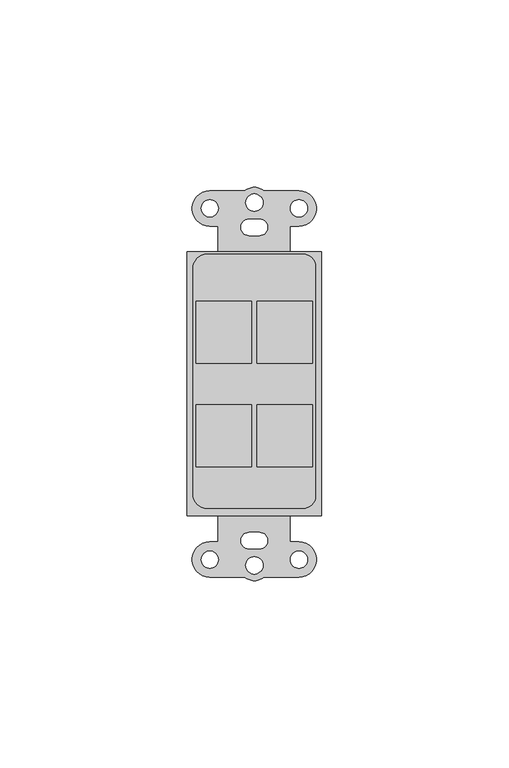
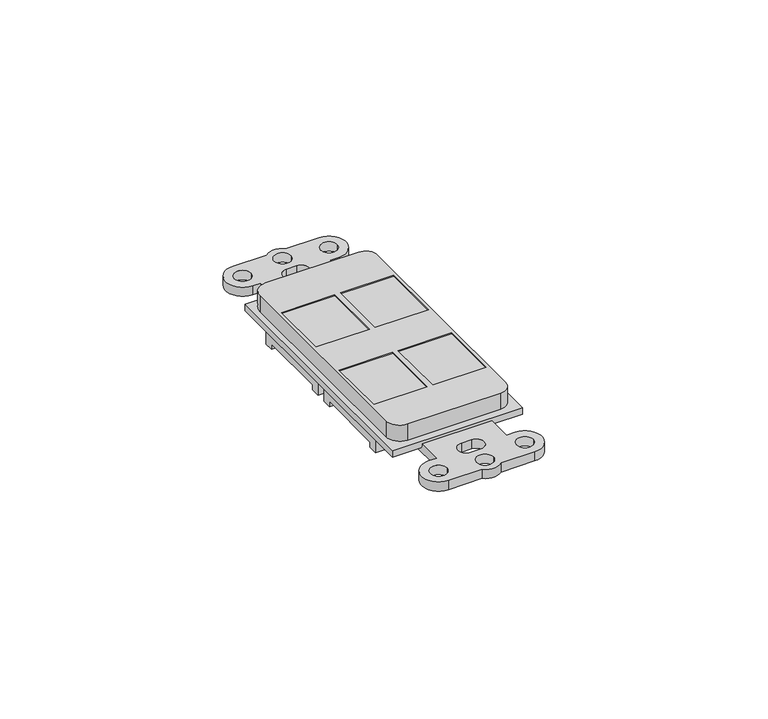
"""IFC4 building model written with IfcOpenShell, lengths in millimetres: electric appliance geometry, Data_Device-Network-Leviton-QuickPort-Duplex : 4-Ports Floor Box Mounting Bezel, Color Black."""

from ifc_helpers import new_model, si_unit, frame, origin, origin_with_axes, place, context, project, spatial, polyline, circle_curve, outline, extrude, faceted_brep, source, transform, mapped, element, save
from ifc_brep_helpers import plane_surface, cylinder_surface, revolved_surface, advanced_brep


def electric_appliance_8460f8e4(model_context):
    return source(origin(), model_context, "Body", "SolidModel", [
        faceted_brep([(-6.0071, 4.54147, -3.175), (-6.0071, 4.54147, 1.651), (-6.0071, -20.09653, 1.651), (-6.0071, -20.09653, -3.175), (-6.0071, -17.55653, -3.175), (-6.0071, -17.55653, -1.651), (-6.0071, 2.00147, -1.651), (-6.0071, 2.00147, -3.175), (-40.0431, 4.54147, -3.175), (-40.0431, 2.00147, -3.175), (-40.0431, 2.00147, -1.651), (-40.0431, -17.55653, -1.651), (-40.0431, -17.55653, -3.175), (-40.0431, -20.09653, -3.175), (-40.0431, -20.09653, 1.651), (-40.0431, 4.54147, 1.651), (-38.5270375, -0.1337175, 1.651), (-23.7950375, -0.1337175, 1.651), (-23.7950375, -16.6437175, 1.651), (-38.5270375, -16.6437175, 1.651), (-22.2551625, -0.1337175, 1.651), (-7.5231625, -0.1337175, 1.651), (-7.5231625, -16.6437175, 1.651), (-22.2551625, -16.6437175, 1.651), (-23.7950375, -0.1337175, -1.651), (-38.5270375, -0.1337175, -1.651), (-38.5270375, -16.6437175, -1.651), (-23.7950375, -16.6437175, -1.651), (-7.5231625, -0.1337175, -1.651), (-22.2551625, -0.1337175, -1.651), (-22.2551625, -16.6437175, -1.651), (-7.5231625, -16.6437175, -1.651)], [[[0, 1, 2, 3, 4, 5, 6, 7]], [[8, 9, 10, 11, 12, 13, 14, 15]], [[1, 0, 8, 15]], [[2, 1, 15, 14], [16, 17, 18, 19], [20, 21, 22, 23]], [[3, 2, 14, 13]], [[4, 3, 13, 12]], [[5, 4, 12, 11]], [[6, 5, 11, 10], [24, 25, 26, 27], [28, 29, 30, 31]], [[7, 6, 10, 9]], [[0, 7, 9, 8]], [[24, 17, 16, 25]], [[25, 16, 19, 26]], [[26, 19, 18, 27]], [[17, 24, 27, 18]], [[28, 21, 20, 29]], [[29, 20, 23, 30]], [[30, 23, 22, 31]], [[21, 28, 31, 22]]]),
        advanced_brep(
        [(-10.0194153, 40.0764273, 8.255), (-35.6225625, 40.0764273, 8.255), (-39.4081, 36.2908898, 8.255), (-39.4081, -23.9315727, 8.255), (-35.6225625, -27.7171102, 8.255), (-10.0194153, -27.7171102, 8.255), (-6.6421, -24.3397948, 8.255), (-6.6421, 36.699112, 8.255), (-38.5270375, 27.5522825, 8.255), (-23.7950375, 27.5522825, 8.255), (-23.7950375, 11.0422825, 8.255), (-38.5270375, 11.0422825, 8.255), (-38.5270375, -0.1337175, 8.255), (-23.7950375, -0.1337175, 8.255), (-23.7950375, -16.6437175, 8.255), (-38.5270375, -16.6437175, 8.255), (-22.2551625, 27.5522825, 8.255), (-7.5231625, 27.5522825, 8.255), (-7.5231625, 11.0422825, 8.255), (-22.2551625, 11.0422825, 8.255), (-22.2551625, -0.1337175, 8.255), (-7.5231625, -0.1337175, 8.255), (-7.5231625, -16.6437175, 8.255), (-22.2551625, -16.6437175, 8.255), (-32.6771, -36.6462175, 2.667), (-34.9256764, -36.6462175, 2.667), (-34.9256764, -46.0442175, 2.667), (-25.6156329, -46.0442175, 2.667), (-20.3869949, -46.0442175, 2.667), (-11.1131764, -46.0442175, 2.667), (-11.1131764, -36.6462175, 2.667), (-13.4944264, -36.6462175, 2.667), (-13.4944264, -29.7247175, 2.667), (-32.6771, -29.7247175, 2.667), (-24.4501, -38.5287175, 2.667), (-24.4501, -34.1287175, 2.667), (-21.6501, -34.1287175, 2.667), (-21.6501, -38.5287175, 2.667), (-37.2116764, -41.3960175, 2.667), (-32.6396764, -41.3960175, 2.667), (-25.3421446, -42.9327175, 2.667), (-20.7080554, -42.9327175, 2.667), (-13.3991764, -41.3960175, 2.667), (-8.8271764, -41.3960175, 2.667), (-13.4944264, 47.5547825, 2.667), (-11.1131764, 47.5547825, 2.667), (-11.1131764, 56.9527825, 2.667), (-20.3869949, 56.9527825, 2.667), (-25.6156329, 56.9527825, 2.667), (-34.9256764, 56.9527825, 2.667), (-34.9256764, 47.5547825, 2.667), (-32.6771, 47.5547825, 2.667), (-32.6771, 40.7159332, 2.667), (-13.4944264, 40.7159332, 2.667), (-24.4501, 49.4372825, 2.667), (-21.6501, 49.4372825, 2.667), (-21.6501, 45.0372825, 2.667), (-24.4501, 45.0372825, 2.667), (-37.2116764, 52.3045825, 2.667), (-32.6396764, 52.3045825, 2.667), (-25.3421446, 53.8412825, 2.667), (-20.7080554, 53.8412825, 2.667), (-13.3991764, 52.3045825, 2.667), (-8.8271764, 52.3045825, 2.667), (-32.6771, -25.4893681, 0.0), (-13.4944264, -25.4893681, 0.0), (-13.4944264, -36.6462175, 0.0), (-11.1131764, -36.6462175, 0.0), (-11.1131764, -46.0442175, 0.0), (-20.3869949, -46.0442175, 0.0), (-25.6156329, -46.0442175, 0.0), (-34.9256764, -46.0442175, 0.0), (-34.9256764, -36.6462175, 0.0), (-32.6771, -36.6462175, 0.0), (-24.4501, -38.5287175, 0.0), (-21.6501, -38.5287175, 0.0), (-21.6501, -34.1287175, 0.0), (-24.4501, -34.1287175, 0.0), (-37.2116764, -41.3960175, 0.0), (-32.6396764, -41.3960175, 0.0), (-25.3421446, -42.9327175, 0.0), (-20.7080554, -42.9327175, 0.0), (-13.3991764, -41.3960175, 0.0), (-8.8271764, -41.3960175, 0.0), (-32.6771, 36.3979332, 0.0), (-32.6771, 47.5547825, 0.0), (-34.9256764, 47.5547825, 0.0), (-34.9256764, 56.9527825, 0.0), (-25.6156329, 56.9527825, 0.0), (-20.3869949, 56.9527825, 0.0), (-11.1131764, 56.9527825, 0.0), (-11.1131764, 47.5547825, 0.0), (-13.4944264, 47.5547825, 0.0), (-13.4944264, 36.3979332, 0.0), (-24.4501, 49.4372825, 0.0), (-24.4501, 45.0372825, 0.0), (-21.6501, 45.0372825, 0.0), (-21.6501, 49.4372825, 0.0), (-37.2116764, 52.3045825, 0.0), (-32.6396764, 52.3045825, 0.0), (-25.3421446, 53.8412825, 0.0), (-20.7080554, 53.8412825, 0.0), (-13.3991764, 52.3045825, 0.0), (-8.8271764, 52.3045825, 0.0), (-32.6771, -29.7247175, 1.651), (-32.6771, -25.4893681, 1.651), (-13.4944264, -25.4893681, 1.651), (-13.4944264, -29.7247175, 1.651), (-13.4944264, 36.3979332, 1.651), (-32.6771, 36.3979332, 1.651), (-13.4944264, 40.7159332, 1.651), (-32.6771, 40.7159332, 1.651), (-10.0194153, 40.0764273, 3.556), (-35.6225625, 40.0764273, 3.556), (-39.4081, 36.2908898, 3.556), (-39.4081, -23.9315727, 3.556), (-35.6225625, -27.7171102, 3.556), (-10.0194153, -27.7171102, 3.556), (-6.6421, -24.3397948, 3.556), (-6.6421, 36.699112, 3.556), (-40.9321, 40.7159332, 3.556), (-40.9321, -29.7247175, 3.556), (-5.1181, -29.7247175, 3.556), (-5.1181, 40.7159332, 3.556), (-5.1181, 40.7159332, 1.651), (-5.1181, -29.7247175, 1.651), (-40.9321, -29.7247175, 1.651), (-40.9321, 40.7159332, 1.651), (-23.7950375, -0.1337175, 1.651), (-38.5270375, -0.1337175, 1.651), (-38.5270375, -16.6437175, 1.651), (-23.7950375, -16.6437175, 1.651), (-7.5231625, -0.1337175, 1.651), (-22.2551625, -0.1337175, 1.651), (-22.2551625, -16.6437175, 1.651), (-7.5231625, -16.6437175, 1.651), (-6.0071, 7.4862825, 1.651), (-6.0071, 32.1242825, 1.651), (-40.0431, 32.1242825, 1.651), (-40.0431, 7.4862825, 1.651), (-23.7950375, 27.5522825, -1.651), (-38.5270375, 27.5522825, -1.651), (-38.5270375, 11.0422825, -1.651), (-23.7950375, 11.0422825, -1.651), (-7.5231625, 27.5522825, -1.651), (-22.2551625, 27.5522825, -1.651), (-22.2551625, 11.0422825, -1.651), (-7.5231625, 11.0422825, -1.651), (-6.0071, 32.1242825, -3.175), (-6.0071, 7.4862825, -3.175), (-6.0071, 10.0262825, -3.175), (-6.0071, 10.0262825, -1.651), (-6.0071, 29.5842825, -1.651), (-6.0071, 29.5842825, -3.175), (-40.0431, 32.1242825, -3.175), (-40.0431, 29.5842825, -3.175), (-40.0431, 29.5842825, -1.651), (-40.0431, 10.0262825, -1.651), (-40.0431, 10.0262825, -3.175), (-40.0431, 7.4862825, -3.175)],
        [
            (0, 1),
            (1, 2, circle_curve(frame((-35.6225625, 36.2908898, 8.255), z_axis=(0.0, 0.0, 1.0), x_axis=(1.0, 0.0, 0.0)), 3.7855375)),
            (2, 3),
            (3, 4, circle_curve(frame((-35.6225625, -23.9315727, 8.255), z_axis=(0.0, 0.0, 1.0), x_axis=(1.0, 0.0, 0.0)), 3.7855375)),
            (4, 5),
            (5, 6, circle_curve(frame((-10.0194153, -24.3397948, 8.255), z_axis=(0.0, 0.0, 1.0), x_axis=(1.0, 0.0, 0.0)), 3.3773153)),
            (6, 7),
            (7, 0, circle_curve(frame((-10.0194153, 36.699112, 8.255), z_axis=(0.0, 0.0, 1.0), x_axis=(1.0, 0.0, 0.0)), 3.3773153)),
            (8, 9),
            (9, 10),
            (10, 11),
            (11, 8),
            (12, 13),
            (13, 14),
            (14, 15),
            (15, 12),
            (16, 17),
            (17, 18),
            (18, 19),
            (19, 16),
            (20, 21),
            (21, 22),
            (22, 23),
            (23, 20),
            (24, 25),
            (25, 26, circle_curve(frame((-34.9256764, -41.3452175, 2.667), z_axis=(0.0, 0.0, 1.0), x_axis=(1.0, 0.0, 0.0)), 4.699)),
            (26, 27),
            (27, 28, circle_curve(frame((-23.0013139, -42.9327175, 2.667), z_axis=(0.0, 0.0, 1.0), x_axis=(1.0, 0.0, 0.0)), 4.064)),
            (28, 29),
            (29, 30, circle_curve(frame((-11.1131764, -41.3452175, 2.667), z_axis=(0.0, 0.0, 1.0), x_axis=(1.0, 0.0, 0.0)), 4.699)),
            (30, 31),
            (31, 32),
            (32, 33),
            (33, 24),
            (34, 35, circle_curve(frame((-24.4501, -36.3287175, 2.667), z_axis=(0.0, 0.0, -1.0), x_axis=(1.0, 0.0, 0.0)), 2.2)),
            (35, 36),
            (36, 37, circle_curve(frame((-21.6501, -36.3287175, 2.667), z_axis=(0.0, 0.0, -1.0), x_axis=(1.0, 0.0, 0.0)), 2.2)),
            (37, 34),
            (38, 39, circle_curve(frame((-34.9256764, -41.3960175, 2.667), z_axis=(0.0, 0.0, -1.0), x_axis=(1.0, 0.0, 0.0)), 2.286)),
            (39, 38, circle_curve(frame((-34.9256764, -41.3960175, 2.667), z_axis=(0.0, 0.0, -1.0), x_axis=(1.0, 0.0, 0.0)), 2.286)),
            (40, 41, circle_curve(frame((-23.0251, -42.9327175, 2.667), z_axis=(0.0, 0.0, -1.0), x_axis=(1.0, 0.0, 0.0)), 2.3170446)),
            (41, 40, circle_curve(frame((-23.0251, -42.9327175, 2.667), z_axis=(0.0, 0.0, -1.0), x_axis=(1.0, 0.0, 0.0)), 2.3170446)),
            (42, 43, circle_curve(frame((-11.1131764, -41.3960175, 2.667), z_axis=(0.0, 0.0, -1.0), x_axis=(1.0, 0.0, 0.0)), 2.286)),
            (43, 42, circle_curve(frame((-11.1131764, -41.3960175, 2.667), z_axis=(0.0, 0.0, -1.0), x_axis=(1.0, 0.0, 0.0)), 2.286)),
            (44, 45),
            (45, 46, circle_curve(frame((-11.1131764, 52.2537825, 2.667), z_axis=(0.0, 0.0, 1.0), x_axis=(1.0, 0.0, 0.0)), 4.699)),
            (46, 47),
            (47, 48, circle_curve(frame((-23.0013139, 53.8412825, 2.667), z_axis=(0.0, 0.0, 1.0), x_axis=(1.0, 0.0, 0.0)), 4.064)),
            (48, 49),
            (49, 50, circle_curve(frame((-34.9256764, 52.2537825, 2.667), z_axis=(0.0, 0.0, 1.0), x_axis=(1.0, 0.0, 0.0)), 4.699)),
            (50, 51),
            (51, 52),
            (52, 53),
            (53, 44),
            (54, 55),
            (55, 56, circle_curve(frame((-21.6501, 47.2372825, 2.667), z_axis=(0.0, 0.0, -1.0), x_axis=(1.0, 0.0, 0.0)), 2.2)),
            (56, 57),
            (57, 54, circle_curve(frame((-24.4501, 47.2372825, 2.667), z_axis=(0.0, 0.0, -1.0), x_axis=(1.0, 0.0, 0.0)), 2.2)),
            (58, 59, circle_curve(frame((-34.9256764, 52.3045825, 2.667), z_axis=(0.0, 0.0, -1.0), x_axis=(1.0, 0.0, 0.0)), 2.286)),
            (59, 58, circle_curve(frame((-34.9256764, 52.3045825, 2.667), z_axis=(0.0, 0.0, -1.0), x_axis=(1.0, 0.0, 0.0)), 2.286)),
            (60, 61, circle_curve(frame((-23.0251, 53.8412825, 2.667), z_axis=(0.0, 0.0, -1.0), x_axis=(1.0, 0.0, 0.0)), 2.3170446)),
            (61, 60, circle_curve(frame((-23.0251, 53.8412825, 2.667), z_axis=(0.0, 0.0, -1.0), x_axis=(1.0, 0.0, 0.0)), 2.3170446)),
            (62, 63, circle_curve(frame((-11.1131764, 52.3045825, 2.667), z_axis=(0.0, 0.0, -1.0), x_axis=(1.0, 0.0, 0.0)), 2.286)),
            (63, 62, circle_curve(frame((-11.1131764, 52.3045825, 2.667), z_axis=(0.0, 0.0, -1.0), x_axis=(1.0, 0.0, 0.0)), 2.286)),
            (64, 65),
            (65, 66),
            (66, 67),
            (67, 68, circle_curve(frame((-11.1131764, -41.3452175, 0.0), z_axis=(0.0, 0.0, -1.0), x_axis=(1.0, 0.0, 0.0)), 4.699)),
            (68, 69),
            (69, 70, circle_curve(frame((-23.0013139, -42.9327175, 0.0), z_axis=(0.0, 0.0, -1.0), x_axis=(1.0, 0.0, 0.0)), 4.064)),
            (70, 71),
            (71, 72, circle_curve(frame((-34.9256764, -41.3452175, 0.0), z_axis=(0.0, 0.0, -1.0), x_axis=(1.0, 0.0, 0.0)), 4.699)),
            (72, 73),
            (73, 64),
            (74, 75),
            (75, 76, circle_curve(frame((-21.6501, -36.3287175, 0.0), z_axis=(0.0, 0.0, 1.0), x_axis=(1.0, 0.0, 0.0)), 2.2)),
            (76, 77),
            (77, 74, circle_curve(frame((-24.4501, -36.3287175, 0.0), z_axis=(0.0, 0.0, 1.0), x_axis=(1.0, 0.0, 0.0)), 2.2)),
            (78, 79, circle_curve(frame((-34.9256764, -41.3960175, 0.0), z_axis=(0.0, 0.0, 1.0), x_axis=(1.0, 0.0, 0.0)), 2.286)),
            (79, 78, circle_curve(frame((-34.9256764, -41.3960175, 0.0), z_axis=(0.0, 0.0, 1.0), x_axis=(1.0, 0.0, 0.0)), 2.286)),
            (80, 81, circle_curve(frame((-23.0251, -42.9327175, 0.0), z_axis=(0.0, 0.0, 1.0), x_axis=(1.0, 0.0, 0.0)), 2.3170446)),
            (81, 80, circle_curve(frame((-23.0251, -42.9327175, 0.0), z_axis=(0.0, 0.0, 1.0), x_axis=(1.0, 0.0, 0.0)), 2.3170446)),
            (82, 83, circle_curve(frame((-11.1131764, -41.3960175, 0.0), z_axis=(0.0, 0.0, 1.0), x_axis=(1.0, 0.0, 0.0)), 2.286)),
            (83, 82, circle_curve(frame((-11.1131764, -41.3960175, 0.0), z_axis=(0.0, 0.0, 1.0), x_axis=(1.0, 0.0, 0.0)), 2.286)),
            (84, 85),
            (85, 86),
            (86, 87, circle_curve(frame((-34.9256764, 52.2537825, 0.0), z_axis=(0.0, 0.0, -1.0), x_axis=(1.0, 0.0, 0.0)), 4.699)),
            (87, 88),
            (88, 89, circle_curve(frame((-23.0013139, 53.8412825, 0.0), z_axis=(0.0, 0.0, -1.0), x_axis=(1.0, 0.0, 0.0)), 4.064)),
            (89, 90),
            (90, 91, circle_curve(frame((-11.1131764, 52.2537825, 0.0), z_axis=(0.0, 0.0, -1.0), x_axis=(1.0, 0.0, 0.0)), 4.699)),
            (91, 92),
            (92, 93),
            (93, 84),
            (94, 95, circle_curve(frame((-24.4501, 47.2372825, 0.0), z_axis=(0.0, 0.0, 1.0), x_axis=(1.0, 0.0, 0.0)), 2.2)),
            (95, 96),
            (96, 97, circle_curve(frame((-21.6501, 47.2372825, 0.0), z_axis=(0.0, 0.0, 1.0), x_axis=(1.0, 0.0, 0.0)), 2.2)),
            (97, 94),
            (98, 99, circle_curve(frame((-34.9256764, 52.3045825, 0.0), z_axis=(0.0, 0.0, 1.0), x_axis=(1.0, 0.0, 0.0)), 2.286)),
            (99, 98, circle_curve(frame((-34.9256764, 52.3045825, 0.0), z_axis=(0.0, 0.0, 1.0), x_axis=(1.0, 0.0, 0.0)), 2.286)),
            (100, 101, circle_curve(frame((-23.0251, 53.8412825, 0.0), z_axis=(0.0, 0.0, 1.0), x_axis=(1.0, 0.0, 0.0)), 2.3170446)),
            (101, 100, circle_curve(frame((-23.0251, 53.8412825, 0.0), z_axis=(0.0, 0.0, 1.0), x_axis=(1.0, 0.0, 0.0)), 2.3170446)),
            (102, 103, circle_curve(frame((-11.1131764, 52.3045825, 0.0), z_axis=(0.0, 0.0, 1.0), x_axis=(1.0, 0.0, 0.0)), 2.286)),
            (103, 102, circle_curve(frame((-11.1131764, 52.3045825, 0.0), z_axis=(0.0, 0.0, 1.0), x_axis=(1.0, 0.0, 0.0)), 2.286)),
            (34, 74),
            (77, 35),
            (76, 36),
            (75, 37),
            (54, 94),
            (97, 55),
            (96, 56),
            (95, 57),
            (73, 24),
            (33, 104),
            (104, 105),
            (105, 64),
            (72, 25),
            (71, 26),
            (70, 27),
            (69, 28),
            (68, 29),
            (67, 30),
            (66, 31),
            (65, 106),
            (106, 107),
            (107, 32),
            (105, 106),
            (38, 78),
            (79, 39),
            (40, 80),
            (81, 41),
            (42, 82),
            (83, 43),
            (93, 108),
            (108, 109),
            (109, 84),
            (92, 44),
            (53, 110),
            (110, 108),
            (91, 45),
            (90, 46),
            (89, 47),
            (88, 48),
            (87, 49),
            (86, 50),
            (85, 51),
            (109, 111),
            (111, 52),
            (58, 98),
            (99, 59),
            (60, 100),
            (101, 61),
            (62, 102),
            (103, 63),
            (0, 112),
            (112, 113),
            (113, 1),
            (113, 114, circle_curve(frame((-35.6225625, 36.2908898, 3.556), z_axis=(0.0, 0.0, 1.0), x_axis=(1.0, 0.0, 0.0)), 3.7855375)),
            (114, 2),
            (114, 115),
            (115, 3),
            (115, 116, circle_curve(frame((-35.6225625, -23.9315727, 3.556), z_axis=(0.0, 0.0, 1.0), x_axis=(1.0, 0.0, 0.0)), 3.7855375)),
            (116, 4),
            (116, 117),
            (117, 5),
            (117, 118, circle_curve(frame((-10.0194153, -24.3397948, 3.556), z_axis=(0.0, 0.0, 1.0), x_axis=(1.0, 0.0, 0.0)), 3.3773153)),
            (118, 6),
            (118, 119),
            (119, 7),
            (119, 112, circle_curve(frame((-10.0194153, 36.699112, 3.556), z_axis=(0.0, 0.0, 1.0), x_axis=(1.0, 0.0, 0.0)), 3.3773153)),
            (120, 121),
            (121, 122),
            (122, 123),
            (123, 120),
            (124, 125),
            (125, 107),
            (104, 126),
            (126, 127),
            (127, 111),
            (110, 124),
            (128, 129),
            (129, 130),
            (130, 131),
            (131, 128),
            (132, 133),
            (133, 134),
            (134, 135),
            (135, 132),
            (136, 137),
            (137, 138),
            (138, 139),
            (139, 136),
            (120, 127),
            (126, 121),
            (125, 122),
            (124, 123),
            (140, 9),
            (8, 141),
            (141, 140),
            (11, 142),
            (142, 141),
            (10, 143),
            (143, 142),
            (140, 143),
            (128, 13),
            (12, 129),
            (15, 130),
            (14, 131),
            (144, 17),
            (16, 145),
            (145, 144),
            (19, 146),
            (146, 145),
            (18, 147),
            (147, 146),
            (144, 147),
            (132, 21),
            (20, 133),
            (23, 134),
            (22, 135),
            (148, 137),
            (136, 149),
            (149, 150),
            (150, 151),
            (151, 152),
            (152, 153),
            (153, 148),
            (154, 155),
            (155, 156),
            (156, 157),
            (157, 158),
            (158, 159),
            (159, 139),
            (138, 154),
            (148, 154),
            (159, 149),
            (158, 150),
            (157, 151),
            (156, 152),
            (155, 153),
        ],
        [
            plane_surface(frame((-35.6225625, 40.0764273, 8.255), z_axis=(0.0, 0.0, 1.0), x_axis=(-1.0, 0.0, 0.0))),
            plane_surface(frame((-22.2501, -36.3287175, 2.667), z_axis=(0.0, 0.0, 1.0), x_axis=(0.0, -1.0, 0.0))),
            plane_surface(frame((-22.2501, -36.3287175, 0.0), z_axis=(0.0, 0.0, -1.0), x_axis=(0.0, 1.0, 0.0))),
            revolved_surface(polyline([(-22.2501, -36.3287175, 0.0), (-22.2501, -36.3287175, 2.667)]), (-24.4501, -36.3287175, 0.0), (0.0, 0.0, -1.0)),
            plane_surface(frame((-24.4501, -34.1287175, 2.667), z_axis=(0.0, -1.0, 0.0), x_axis=(0.0, 0.0, -1.0))),
            revolved_surface(polyline([(-19.4501, -36.3287175, 0.0), (-19.4501, -36.3287175, 2.667)]), (-21.6501, -36.3287175, 0.0), (0.0, 0.0, -1.0)),
            plane_surface(frame((-21.6501, -38.5287175, 2.667), z_axis=(0.0, 1.0, 0.0), x_axis=(0.0, 0.0, -1.0))),
            plane_surface(frame((-24.4501, 49.4372825, 2.667), z_axis=(0.0, -1.0, 0.0), x_axis=(0.0, 0.0, -1.0))),
            revolved_surface(polyline([(-19.4501, 47.2372825, 0.0), (-19.4501, 47.2372825, 2.667)]), (-21.6501, 47.2372825, 0.0), (0.0, 0.0, -1.0)),
            plane_surface(frame((-21.6501, 45.0372825, 2.667), z_axis=(0.0, 1.0, 0.0), x_axis=(0.0, 0.0, -1.0))),
            revolved_surface(polyline([(-22.2501, 47.2372825, 0.0), (-22.2501, 47.2372825, 2.667)]), (-24.4501, 47.2372825, 0.0), (0.0, 0.0, -1.0)),
            plane_surface(frame((-32.6771, -25.4893681, 2.667), z_axis=(-1.0, 0.0, 0.0), x_axis=(0.0, 0.0, -1.0))),
            plane_surface(frame((-32.6771, -36.6462175, 2.667), z_axis=(0.0, 1.0, 0.0), x_axis=(0.0, 0.0, -1.0))),
            cylinder_surface(frame((-34.9256764, -41.3452175, 0.0), z_axis=(0.0, 0.0, 1.0), x_axis=(1.0, 0.0, 0.0)), 4.699),
            plane_surface(frame((-34.9256764, -46.0442175, 2.667), z_axis=(0.0, -1.0, 0.0), x_axis=(0.0, 0.0, -1.0))),
            cylinder_surface(frame((-23.0013139, -42.9327175, 0.0), z_axis=(0.0, 0.0, 1.0), x_axis=(1.0, 0.0, 0.0)), 4.064),
            plane_surface(frame((-20.3869949, -46.0442175, 2.667), z_axis=(0.0, -1.0, 0.0), x_axis=(0.0, 0.0, -1.0))),
            cylinder_surface(frame((-11.1131764, -41.3452175, 0.0), z_axis=(0.0, 0.0, 1.0), x_axis=(1.0, 0.0, 0.0)), 4.699),
            plane_surface(frame((-11.1131764, -36.6462175, 2.667), z_axis=(-1.119104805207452e-12, 1.0, 0.0), x_axis=(0.0, 0.0, -1.0))),
            plane_surface(frame((-13.4944264, -36.6462175, 2.667), z_axis=(1.0, 0.0, 0.0), x_axis=(0.0, 0.0, -1.0))),
            plane_surface(frame((-13.4944264, -25.4893681, 2.667), z_axis=(0.0, 1.0, 0.0), x_axis=(0.0, 0.0, -1.0))),
            revolved_surface(polyline([(-32.6396764, -41.3960175, 0.0), (-32.6396764, -41.3960175, 2.667)]), (-34.9256764, -41.3960175, 0.0), (0.0, 0.0, -1.0)),
            revolved_surface(polyline([(-20.7080554, -42.9327175, 0.0), (-20.7080554, -42.9327175, 2.667)]), (-23.0251, -42.9327175, 0.0), (0.0, 0.0, -1.0)),
            revolved_surface(polyline([(-8.8271764, -41.3960175, 0.0), (-8.8271764, -41.3960175, 2.667)]), (-11.1131764, -41.3960175, 0.0), (0.0, 0.0, -1.0)),
            plane_surface(frame((-32.6771, 36.3979332, 2.667), z_axis=(0.0, -1.0, 0.0), x_axis=(0.0, 0.0, -1.0))),
            plane_surface(frame((-13.4944264, 36.3979332, 2.667), z_axis=(1.0, 0.0, 0.0), x_axis=(0.0, 0.0, -1.0))),
            plane_surface(frame((-13.4944264, 47.5547825, 2.667), z_axis=(1.1581846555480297e-12, -1.0, 0.0), x_axis=(0.0, 0.0, -1.0))),
            cylinder_surface(frame((-11.1131764, 52.2537825, 0.0), z_axis=(0.0, 0.0, 1.0), x_axis=(1.0, 0.0, 0.0)), 4.699),
            plane_surface(frame((-11.1131764, 56.9527825, 2.667), z_axis=(0.0, 1.0, 0.0), x_axis=(0.0, 0.0, -1.0))),
            cylinder_surface(frame((-23.0013139, 53.8412825, 0.0), z_axis=(0.0, 0.0, 1.0), x_axis=(1.0, 0.0, 0.0)), 4.064),
            plane_surface(frame((-25.6156329, 56.9527825, 2.667), z_axis=(0.0, 1.0, 0.0), x_axis=(0.0, 0.0, -1.0))),
            cylinder_surface(frame((-34.9256764, 52.2537825, 0.0), z_axis=(0.0, 0.0, 1.0), x_axis=(1.0, 0.0, 0.0)), 4.699),
            plane_surface(frame((-34.9256764, 47.5547825, 2.667), z_axis=(0.0, -1.0, 0.0), x_axis=(0.0, 0.0, -1.0))),
            plane_surface(frame((-32.6771, 47.5547825, 2.667), z_axis=(-1.0, 0.0, 0.0), x_axis=(0.0, 0.0, -1.0))),
            revolved_surface(polyline([(-32.6396764, 52.3045825, 0.0), (-32.6396764, 52.3045825, 2.667)]), (-34.9256764, 52.3045825, 0.0), (0.0, 0.0, -1.0)),
            revolved_surface(polyline([(-20.7080554, 53.8412825, 0.0), (-20.7080554, 53.8412825, 2.667)]), (-23.0251, 53.8412825, 0.0), (0.0, 0.0, -1.0)),
            revolved_surface(polyline([(-8.8271764, 52.3045825, 0.0), (-8.8271764, 52.3045825, 2.667)]), (-11.1131764, 52.3045825, 0.0), (0.0, 0.0, -1.0)),
            plane_surface(frame((-10.0194153, 40.0764273, 8.255), z_axis=(0.0, 1.0, 0.0), x_axis=(0.0, 0.0, -1.0))),
            cylinder_surface(frame((-35.6225625, 36.2908898, 3.556), z_axis=(0.0, 0.0, 1.0), x_axis=(1.0, 0.0, 0.0)), 3.7855375),
            plane_surface(frame((-39.4081, 36.2908898, 8.255), z_axis=(-1.0, 0.0, 0.0), x_axis=(0.0, 0.0, -1.0))),
            cylinder_surface(frame((-35.6225625, -23.9315727, 3.556), z_axis=(0.0, 0.0, 1.0), x_axis=(1.0, 0.0, 0.0)), 3.7855375),
            plane_surface(frame((-35.6225625, -27.7171102, 8.255), z_axis=(0.0, -1.0, 0.0), x_axis=(0.0, 0.0, -1.0))),
            cylinder_surface(frame((-10.0194153, -24.3397948, 3.556), z_axis=(0.0, 0.0, 1.0), x_axis=(1.0, 0.0, 0.0)), 3.3773153),
            plane_surface(frame((-6.6421, -24.3397948, 8.255), z_axis=(1.0, 0.0, 0.0), x_axis=(0.0, 0.0, -1.0))),
            cylinder_surface(frame((-10.0194153, 36.699112, 3.556), z_axis=(0.0, 0.0, 1.0), x_axis=(1.0, 0.0, 0.0)), 3.3773153),
            plane_surface(frame((-40.9321, -28.9627175, 3.556), z_axis=(0.0, 0.0, 1.0), x_axis=(0.0, -1.0, 0.0))),
            plane_surface(frame((-40.9321, -28.9627175, 1.651), z_axis=(0.0, 0.0, -1.0), x_axis=(0.0, 1.0, 0.0))),
            plane_surface(frame((-40.9321, 40.7159332, 3.556), z_axis=(-1.0, 0.0, 0.0), x_axis=(0.0, 0.0, -1.0))),
            plane_surface(frame((-40.9321, -29.7247175, 3.556), z_axis=(0.0, -1.0, 0.0), x_axis=(0.0, 0.0, -1.0))),
            plane_surface(frame((-5.1181, -29.7247175, 3.556), z_axis=(1.0, 0.0, 0.0), x_axis=(0.0, 0.0, -1.0))),
            plane_surface(frame((-5.1181, 40.7159332, 3.556), z_axis=(0.0, 1.0, 0.0), x_axis=(0.0, 0.0, -1.0))),
            plane_surface(frame((-23.7950375, 27.5522825, 8.255), z_axis=(0.0, -1.0, 0.0), x_axis=(0.0, 0.0, -1.0))),
            plane_surface(frame((-38.5270375, 27.5522825, 8.255), z_axis=(1.0, 0.0, 0.0), x_axis=(0.0, 0.0, -1.0))),
            plane_surface(frame((-38.5270375, 11.0422825, 8.255), z_axis=(0.0, 1.0, 0.0), x_axis=(0.0, 0.0, -1.0))),
            plane_surface(frame((-23.7950375, 11.0422825, 8.255), z_axis=(-1.0, 0.0, 0.0), x_axis=(0.0, 0.0, -1.0))),
            plane_surface(frame((-23.7950375, -0.1337175, 8.255), z_axis=(0.0, -1.0, 0.0), x_axis=(0.0, 0.0, -1.0))),
            plane_surface(frame((-38.5270375, -0.1337175, 8.255), z_axis=(1.0, 0.0, 0.0), x_axis=(0.0, 0.0, -1.0))),
            plane_surface(frame((-38.5270375, -16.6437175, 8.255), z_axis=(0.0, 1.0, 0.0), x_axis=(0.0, 0.0, -1.0))),
            plane_surface(frame((-23.7950375, -16.6437175, 8.255), z_axis=(-1.0, 0.0, 0.0), x_axis=(0.0, 0.0, -1.0))),
            plane_surface(frame((-7.5231625, 27.5522825, 8.255), z_axis=(0.0, -1.0, 0.0), x_axis=(0.0, 0.0, -1.0))),
            plane_surface(frame((-22.2551625, 27.5522825, 8.255), z_axis=(1.0, 0.0, 0.0), x_axis=(0.0, 0.0, -1.0))),
            plane_surface(frame((-22.2551625, 11.0422825, 8.255), z_axis=(0.0, 1.0, 0.0), x_axis=(0.0, 0.0, -1.0))),
            plane_surface(frame((-7.5231625, 11.0422825, 8.255), z_axis=(-1.0, 0.0, 0.0), x_axis=(0.0, 0.0, -1.0))),
            plane_surface(frame((-7.5231625, -0.1337175, 8.255), z_axis=(0.0, -1.0, 0.0), x_axis=(0.0, 0.0, -1.0))),
            plane_surface(frame((-22.2551625, -0.1337175, 8.255), z_axis=(1.0, 0.0, 0.0), x_axis=(0.0, 0.0, -1.0))),
            plane_surface(frame((-22.2551625, -16.6437175, 8.255), z_axis=(0.0, 1.0, 0.0), x_axis=(0.0, 0.0, -1.0))),
            plane_surface(frame((-7.5231625, -16.6437175, 8.255), z_axis=(-1.0, 0.0, 0.0), x_axis=(0.0, 0.0, -1.0))),
            plane_surface(frame((-6.0071, 32.1242825, 1.651), z_axis=(1.0, 0.0, 0.0), x_axis=(0.0, 0.0, 1.0))),
            plane_surface(frame((-40.0431, 32.1242825, 1.651), z_axis=(-1.0, 0.0, 0.0), x_axis=(0.0, 0.0, -1.0))),
            plane_surface(frame((-6.0071, 32.1242825, -3.175), z_axis=(0.0, 1.0, 0.0), x_axis=(-1.0, 0.0, 0.0))),
            plane_surface(frame((-6.0071, 7.4862825, 1.651), z_axis=(0.0, -1.0, 0.0), x_axis=(-1.0, 0.0, 0.0))),
            plane_surface(frame((-6.0071, 7.4862825, -3.175), z_axis=(0.0, 0.0, -1.0), x_axis=(-1.0, 0.0, 0.0))),
            plane_surface(frame((-6.0071, 10.0262825, -3.175), z_axis=(0.0, 1.0, 0.0), x_axis=(-1.0, 0.0, 0.0))),
            plane_surface(frame((-6.0071, 10.0262825, -1.651), z_axis=(0.0, 0.0, -1.0), x_axis=(-1.0, 0.0, 0.0))),
            plane_surface(frame((-6.0071, 29.5842825, -1.651), z_axis=(0.0, -1.0, 0.0), x_axis=(-1.0, 0.0, 0.0))),
            plane_surface(frame((-6.0071, 29.5842825, -3.175), z_axis=(0.0, 0.0, -1.0), x_axis=(-1.0, 0.0, 0.0))),
        ],
        [
            (0, [[1, 2, 3, 4, 5, 6, 7, 8], [9, 10, 11, 12], [13, 14, 15, 16], [17, 18, 19, 20], [21, 22, 23, 24]]),
            (1, [[25, 26, 27, 28, 29, 30, 31, 32, 33, 34], [35, 36, 37, 38], [39, 40], [41, 42], [43, 44]]),
            (1, [[45, 46, 47, 48, 49, 50, 51, 52, 53, 54], [55, 56, 57, 58], [59, 60], [61, 62], [63, 64]]),
            (2, [[65, 66, 67, 68, 69, 70, 71, 72, 73, 74], [75, 76, 77, 78], [79, 80], [81, 82], [83, 84]]),
            (2, [[85, 86, 87, 88, 89, 90, 91, 92, 93, 94], [95, 96, 97, 98], [99, 100], [101, 102], [103, 104]]),
            (3, [[-35, 105, -78, 106]]),
            (4, [[-36, -106, -77, 107]]),
            (5, [[-37, -107, -76, 108]]),
            (6, [[-38, -108, -75, -105]]),
            (7, [[-55, 109, -98, 110]]),
            (8, [[-56, -110, -97, 111]]),
            (9, [[-57, -111, -96, 112]]),
            (10, [[-58, -112, -95, -109]]),
            (11, [[-74, 113, -34, 114, 115, 116]]),
            (12, [[-25, -113, -73, 117]]),
            (13, [[-26, -117, -72, 118]]),
            (14, [[-27, -118, -71, 119]]),
            (15, [[-28, -119, -70, 120]]),
            (16, [[-29, -120, -69, 121]]),
            (17, [[-30, -121, -68, 122]]),
            (18, [[-31, -122, -67, 123]]),
            (19, [[-66, 124, 125, 126, -32, -123]]),
            (20, [[-65, -116, 127, -124]]),
            (21, [[-39, 128, -80, 129]]),
            (21, [[-40, -129, -79, -128]]),
            (22, [[-41, 130, -82, 131]]),
            (22, [[-42, -131, -81, -130]]),
            (23, [[-43, 132, -84, 133]]),
            (23, [[-44, -133, -83, -132]]),
            (24, [[-94, 134, 135, 136]]),
            (25, [[-93, 137, -54, 138, 139, -134]]),
            (26, [[-45, -137, -92, 140]]),
            (27, [[-46, -140, -91, 141]]),
            (28, [[-47, -141, -90, 142]]),
            (29, [[-48, -142, -89, 143]]),
            (30, [[-49, -143, -88, 144]]),
            (31, [[-50, -144, -87, 145]]),
            (32, [[-51, -145, -86, 146]]),
            (33, [[-85, -136, 147, 148, -52, -146]]),
            (34, [[-59, 149, -100, 150]]),
            (34, [[-60, -150, -99, -149]]),
            (35, [[-61, 151, -102, 152]]),
            (35, [[-62, -152, -101, -151]]),
            (36, [[-63, 153, -104, 154]]),
            (36, [[-64, -154, -103, -153]]),
            (37, [[-1, 155, 156, 157]]),
            (38, [[-2, -157, 158, 159]]),
            (39, [[-3, -159, 160, 161]]),
            (40, [[-4, -161, 162, 163]]),
            (41, [[-5, -163, 164, 165]]),
            (42, [[-6, -165, 166, 167]]),
            (43, [[-7, -167, 168, 169]]),
            (44, [[-8, -169, 170, -155]]),
            (45, [[171, 172, 173, 174], [-156, -170, -168, -166, -164, -162, -160, -158]]),
            (46, [[175, 176, -125, -127, -115, 177, 178, 179, -147, -135, -139, 180], [181, 182, 183, 184], [185, 186, 187, 188], [189, 190, 191, 192]]),
            (47, [[-171, 193, -178, 194]]),
            (48, [[-172, -194, -177, -114, -33, -126, -176, 195]]),
            (49, [[-173, -195, -175, 196]]),
            (50, [[-174, -196, -180, -138, -53, -148, -179, -193]]),
            (51, [[197, -9, 198, 199]]),
            (52, [[-198, -12, 200, 201]]),
            (53, [[-200, -11, 202, 203]]),
            (54, [[-197, 204, -202, -10]]),
            (55, [[205, -13, 206, -181]]),
            (56, [[-206, -16, 207, -182]]),
            (57, [[-207, -15, 208, -183]]),
            (58, [[-205, -184, -208, -14]]),
            (59, [[209, -17, 210, 211]]),
            (60, [[-210, -20, 212, 213]]),
            (61, [[-212, -19, 214, 215]]),
            (62, [[-209, 216, -214, -18]]),
            (63, [[217, -21, 218, -185]]),
            (64, [[-218, -24, 219, -186]]),
            (65, [[-219, -23, 220, -187]]),
            (66, [[-217, -188, -220, -22]]),
            (67, [[221, -189, 222, 223, 224, 225, 226, 227]]),
            (68, [[228, 229, 230, 231, 232, 233, -191, 234]]),
            (69, [[-221, 235, -234, -190]]),
            (70, [[-222, -192, -233, 236]]),
            (71, [[-223, -236, -232, 237]]),
            (72, [[-224, -237, -231, 238]]),
            (73, [[-225, -238, -230, 239], [-199, -201, -203, -204], [-211, -213, -215, -216]]),
            (74, [[-226, -239, -229, 240]]),
            (75, [[-227, -240, -228, -235]]),
        ],
    ),
        extrude(outline(polyline([(-38.5270375, 11.0422825), (-38.5270375, 27.5522825), (-23.7950375, 27.5522825), (-23.7950375, 11.0422825), (-38.5270375, 11.0422825)])), origin_with_axes(), (0.0, 0.0, 1.0), 8.255),
        extrude(outline(polyline([(-22.2551625, 11.0422825), (-22.2551625, 27.5522825), (-7.5231625, 27.5522825), (-7.5231625, 11.0422825), (-22.2551625, 11.0422825)])), origin_with_axes(), (0.0, 0.0, 1.0), 8.255),
        extrude(outline(polyline([(-7.5231625, -0.1337175), (-7.5231625, -16.6437175), (-22.2551625, -16.6437175), (-22.2551625, -0.1337175), (-7.5231625, -0.1337175)])), origin_with_axes(), (0.0, 0.0, 1.0), 8.255),
        extrude(outline(polyline([(-23.7950375, -0.1337175), (-23.7950375, -16.6437175), (-38.5270375, -16.6437175), (-38.5270375, -0.1337175), (-23.7950375, -0.1337175)])), origin_with_axes(), (0.0, 0.0, 1.0), 8.255),
    ])


if __name__ == "__main__":
    model = new_model("IFC4")
    model_context = context("Model", 3, world=origin())
    ifc_project = project(units=[si_unit("LENGTHUNIT", "METRE", prefix="MILLI")], contexts=[model_context])
    site = spatial("IfcSite", under=ifc_project)
    building = spatial("IfcBuilding", under=site)
    placement = place(None, origin())
    electric_appliance_shape = electric_appliance_8460f8e4(model_context)
    element("IfcElectricAppliance", 1, ObjectType="Data_Device-Network-Leviton-QuickPort-Duplex : 4-Ports Floor Box Mounting Bezel, Color Black", at=placement, inside=building, context=model_context, shape_type="MappedRepresentation", body=[
        mapped(electric_appliance_shape, transform((0.0, 0.0, 0.0), x_axis=(1.0, 0.0, 0.0), y_axis=(0.0, 1.0, 0.0), z_axis=(0.0, 0.0, 1.0))),
    ])
    save(model, "model.ifc")
